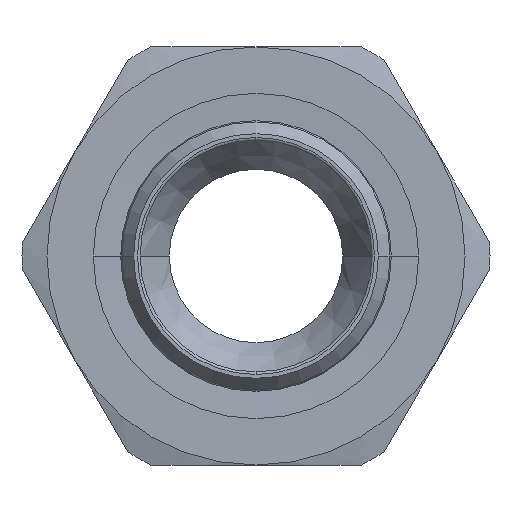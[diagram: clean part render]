
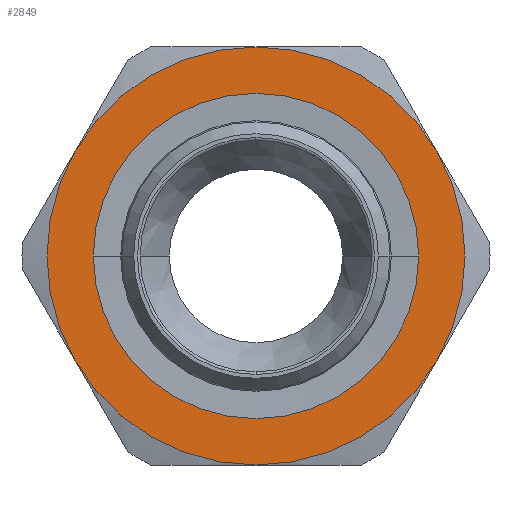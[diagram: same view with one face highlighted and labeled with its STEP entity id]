
A CAD part, left-side view. The second image highlights one B-rep face of the part: STEP entity #2849.
In plain terms, the highlighted planar face has unit normal (-1, 0, 0) as drawn and (0, 0, 1) by its records, which use the part's own axes.
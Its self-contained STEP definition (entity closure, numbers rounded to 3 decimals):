
#1176=CARTESIAN_POINT('',(0.,-15.95,5.));
#1177=VERTEX_POINT('',#1176);
#1193=CARTESIAN_POINT('',(0.,15.95,5.0));
#1194=VERTEX_POINT('',#1193);
#1201=CARTESIAN_POINT('',(0.,0.,5.0));
#1202=DIRECTION('',(0.0,0.0,-1.0));
#1203=DIRECTION('',(0.0,-1.0,0.0));
#1204=AXIS2_PLACEMENT_3D('',#1201,#1202,#1203);
#1205=CIRCLE('',#1204,15.95);
#1206=EDGE_CURVE('',#1177,#1194,#1205,.T.);
#1663=CARTESIAN_POINT('',(0.,0.,5.0));
#1664=DIRECTION('',(0.0,0.0,-1.0));
#1665=DIRECTION('',(0.0,-1.0,0.0));
#1666=AXIS2_PLACEMENT_3D('',#1663,#1664,#1665);
#1667=CIRCLE('',#1666,15.95);
#1668=EDGE_CURVE('',#1194,#1177,#1667,.T.);
#2222=CARTESIAN_POINT('',(10.25,-17.754,5.0));
#2223=VERTEX_POINT('',#2222);
#2237=CARTESIAN_POINT('',(-10.25,-17.754,5.0));
#2238=VERTEX_POINT('',#2237);
#2239=CARTESIAN_POINT('',(0.,0.0,5.0));
#2240=DIRECTION('',(0.0,0.0,1.0));
#2241=DIRECTION('',(1.0,0.0,0.0));
#2242=AXIS2_PLACEMENT_3D('',#2239,#2240,#2241);
#2243=CIRCLE('',#2242,20.5);
#2244=EDGE_CURVE('',#2238,#2223,#2243,.T.);
#2322=CARTESIAN_POINT('',(-20.5,0.,5.0));
#2323=VERTEX_POINT('',#2322);
#2324=CARTESIAN_POINT('',(0.,0.0,5.0));
#2325=DIRECTION('',(0.0,0.0,1.0));
#2326=DIRECTION('',(1.0,0.0,0.0));
#2327=AXIS2_PLACEMENT_3D('',#2324,#2325,#2326);
#2328=CIRCLE('',#2327,20.5);
#2329=EDGE_CURVE('',#2323,#2238,#2328,.T.);
#2406=CARTESIAN_POINT('',(-10.25,17.754,5.0));
#2407=VERTEX_POINT('',#2406);
#2408=CARTESIAN_POINT('',(0.,0.0,5.0));
#2409=DIRECTION('',(0.0,0.0,1.0));
#2410=DIRECTION('',(1.0,0.0,0.0));
#2411=AXIS2_PLACEMENT_3D('',#2408,#2409,#2410);
#2412=CIRCLE('',#2411,20.5);
#2413=EDGE_CURVE('',#2407,#2323,#2412,.T.);
#2490=CARTESIAN_POINT('',(10.25,17.754,5.0));
#2491=VERTEX_POINT('',#2490);
#2492=CARTESIAN_POINT('',(0.,0.0,5.0));
#2493=DIRECTION('',(0.0,0.0,1.0));
#2494=DIRECTION('',(1.0,0.0,0.0));
#2495=AXIS2_PLACEMENT_3D('',#2492,#2493,#2494);
#2496=CIRCLE('',#2495,20.5);
#2497=EDGE_CURVE('',#2491,#2407,#2496,.T.);
#2575=CARTESIAN_POINT('',(20.5,0.0,5.0));
#2576=VERTEX_POINT('',#2575);
#2577=CARTESIAN_POINT('',(0.,0.0,5.0));
#2578=DIRECTION('',(0.0,0.0,1.0));
#2579=DIRECTION('',(1.0,0.0,0.0));
#2580=AXIS2_PLACEMENT_3D('',#2577,#2578,#2579);
#2581=CIRCLE('',#2580,20.5);
#2582=EDGE_CURVE('',#2576,#2491,#2581,.T.);
#2659=CARTESIAN_POINT('',(0.,0.0,5.0));
#2660=DIRECTION('',(0.0,0.0,1.0));
#2661=DIRECTION('',(1.0,0.0,0.0));
#2662=AXIS2_PLACEMENT_3D('',#2659,#2660,#2661);
#2663=CIRCLE('',#2662,20.5);
#2664=EDGE_CURVE('',#2223,#2576,#2663,.T.);
#2832=CARTESIAN_POINT('',(0.,0.,5.0));
#2833=DIRECTION('',(0.0,0.0,1.0));
#2834=DIRECTION('',(1.0,0.0,0.0));
#2835=AXIS2_PLACEMENT_3D('',#2832,#2833,#2834);
#2836=PLANE('',#2835);
#2837=ORIENTED_EDGE('',*,*,#2664,.T.);
#2838=ORIENTED_EDGE('',*,*,#2582,.T.);
#2839=ORIENTED_EDGE('',*,*,#2497,.T.);
#2840=ORIENTED_EDGE('',*,*,#2413,.T.);
#2841=ORIENTED_EDGE('',*,*,#2329,.T.);
#2842=ORIENTED_EDGE('',*,*,#2244,.T.);
#2843=EDGE_LOOP('',(#2837,#2838,#2839,#2840,#2841,#2842));
#2844=FACE_OUTER_BOUND('',#2843,.T.);
#2845=ORIENTED_EDGE('',*,*,#1206,.T.);
#2846=ORIENTED_EDGE('',*,*,#1668,.T.);
#2847=EDGE_LOOP('',(#2845,#2846));
#2848=FACE_BOUND('',#2847,.T.);
#2849=ADVANCED_FACE('',(#2844,#2848),#2836,.T.);
